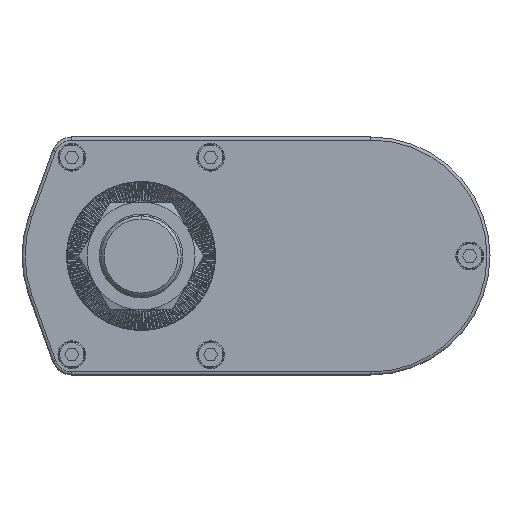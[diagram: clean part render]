
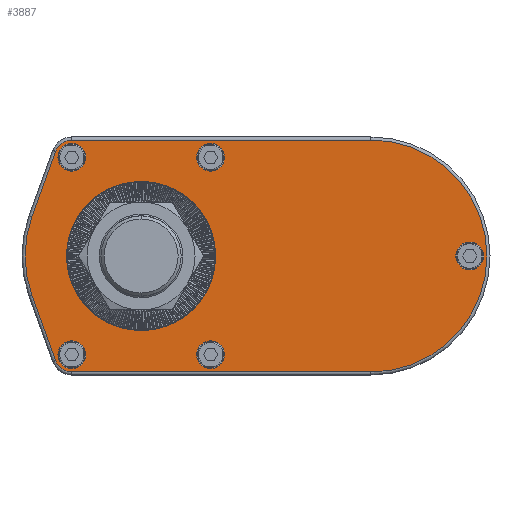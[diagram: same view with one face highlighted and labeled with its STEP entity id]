
A CAD part, left-side view. The second image highlights one B-rep face of the part: STEP entity #3887.
In plain terms, the highlighted planar face has unit normal (-1, 0, 0).
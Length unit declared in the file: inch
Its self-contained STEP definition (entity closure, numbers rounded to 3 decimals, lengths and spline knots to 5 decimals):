
#3887=ADVANCED_FACE('',(#8337,#8338,#8339,#8340,#8341,#8342,#8343),#8344,.F.);
#8337=FACE_BOUND('',#13654,.T.);
#8338=FACE_BOUND('',#13655,.T.);
#8339=FACE_BOUND('',#13656,.T.);
#8340=FACE_BOUND('',#13657,.T.);
#8341=FACE_BOUND('',#13658,.T.);
#8342=FACE_BOUND('',#13659,.T.);
#8343=FACE_OUTER_BOUND('',#13660,.T.);
#8344=PLANE('',#13661);
#13654=EDGE_LOOP('',(#25475,#25476));
#13655=EDGE_LOOP('',(#25477,#25478));
#13656=EDGE_LOOP('',(#25479,#25480));
#13657=EDGE_LOOP('',(#25481,#25482));
#13658=EDGE_LOOP('',(#25483,#25484));
#13659=EDGE_LOOP('',(#25485,#25486));
#13660=EDGE_LOOP('',(#25487,#25488,#25489,#25490,#25491,#25492,#25493,#25494));
#13661=AXIS2_PLACEMENT_3D('',#25495,#25496,#25497);
#25475=ORIENTED_EDGE('',*,*,#34352,.F.);
#25476=ORIENTED_EDGE('',*,*,#32384,.F.);
#25477=ORIENTED_EDGE('',*,*,#32184,.T.);
#25478=ORIENTED_EDGE('',*,*,#34591,.T.);
#25479=ORIENTED_EDGE('',*,*,#31621,.T.);
#25480=ORIENTED_EDGE('',*,*,#34745,.T.);
#25481=ORIENTED_EDGE('',*,*,#34105,.T.);
#25482=ORIENTED_EDGE('',*,*,#33508,.T.);
#25483=ORIENTED_EDGE('',*,*,#33665,.T.);
#25484=ORIENTED_EDGE('',*,*,#34746,.T.);
#25485=ORIENTED_EDGE('',*,*,#33108,.T.);
#25486=ORIENTED_EDGE('',*,*,#31540,.T.);
#25487=ORIENTED_EDGE('',*,*,#31672,.T.);
#25488=ORIENTED_EDGE('',*,*,#34158,.T.);
#25489=ORIENTED_EDGE('',*,*,#30766,.T.);
#25490=ORIENTED_EDGE('',*,*,#32544,.T.);
#25491=ORIENTED_EDGE('',*,*,#34747,.T.);
#25492=ORIENTED_EDGE('',*,*,#34748,.T.);
#25493=ORIENTED_EDGE('',*,*,#34749,.T.);
#25494=ORIENTED_EDGE('',*,*,#32443,.T.);
#25495=CARTESIAN_POINT('',(0.0,-2.93307,0.0));
#25496=DIRECTION('',(1.0,0.0,0.0));
#25497=DIRECTION('',(0.0,1.0,-0.0));
#30766=EDGE_CURVE('',#36997,#36995,#36998,.F.);
#31540=EDGE_CURVE('',#38275,#38273,#38276,.T.);
#31621=EDGE_CURVE('',#38395,#38397,#38399,.T.);
#31672=EDGE_CURVE('',#38476,#38481,#38483,.F.);
#32184=EDGE_CURVE('',#39274,#39276,#39278,.T.);
#32384=EDGE_CURVE('',#39627,#39300,#39629,.F.);
#32443=EDGE_CURVE('',#39708,#38476,#39712,.F.);
#32544=EDGE_CURVE('',#36995,#39861,#39863,.F.);
#33108=EDGE_CURVE('',#38273,#38275,#40667,.T.);
#33508=EDGE_CURVE('',#41195,#41193,#41196,.T.);
#33665=EDGE_CURVE('',#41396,#41398,#41400,.T.);
#34105=EDGE_CURVE('',#41193,#41195,#41965,.T.);
#34158=EDGE_CURVE('',#38481,#36997,#42030,.F.);
#34352=EDGE_CURVE('',#39300,#39627,#42254,.F.);
#34591=EDGE_CURVE('',#39276,#39274,#42554,.T.);
#34745=EDGE_CURVE('',#38397,#38395,#42727,.T.);
#34746=EDGE_CURVE('',#41398,#41396,#42728,.T.);
#34747=EDGE_CURVE('',#39861,#42729,#42730,.F.);
#34748=EDGE_CURVE('',#42729,#42731,#42732,.F.);
#34749=EDGE_CURVE('',#42731,#39708,#42733,.F.);
#36995=VERTEX_POINT('',#45551);
#36997=VERTEX_POINT('',#45553);
#36998=CIRCLE('',#45554,0.22047);
#38273=VERTEX_POINT('',#47264);
#38275=VERTEX_POINT('',#47267);
#38276=CIRCLE('',#47268,0.17717);
#38395=VERTEX_POINT('',#47438);
#38397=VERTEX_POINT('',#47441);
#38399=CIRCLE('',#47444,0.17717);
#38476=VERTEX_POINT('',#47554);
#38481=VERTEX_POINT('',#47559);
#38483=CIRCLE('',#47561,1.48031);
#39274=VERTEX_POINT('',#48637);
#39276=VERTEX_POINT('',#48640);
#39278=CIRCLE('',#48643,0.17717);
#39300=VERTEX_POINT('',#48670);
#39627=VERTEX_POINT('',#48998);
#39629=CIRCLE('',#49001,0.94882);
#39708=VERTEX_POINT('',#49113);
#39712=LINE('',#49118,#49119);
#39861=VERTEX_POINT('',#49332);
#39863=LINE('',#49334,#49335);
#40667=CIRCLE('',#50459,0.17717);
#41193=VERTEX_POINT('',#51206);
#41195=VERTEX_POINT('',#51209);
#41196=CIRCLE('',#51210,0.17717);
#41396=VERTEX_POINT('',#51479);
#41398=VERTEX_POINT('',#51482);
#41400=CIRCLE('',#51485,0.17717);
#41965=CIRCLE('',#52260,0.17717);
#42030=LINE('',#52349,#52350);
#42254=CIRCLE('',#52662,0.94882);
#42554=CIRCLE('',#53039,0.17717);
#42727=CIRCLE('',#53279,0.17717);
#42728=CIRCLE('',#53280,0.17717);
#42729=VERTEX_POINT('',#53281);
#42730=CIRCLE('',#53282,1.48031);
#42731=VERTEX_POINT('',#53283);
#42732=LINE('',#53284,#53285);
#42733=CIRCLE('',#53286,0.22047);
#45551=CARTESIAN_POINT('',(0.0,0.88425,-1.48031));
#45553=CARTESIAN_POINT('',(0.0,1.0916,-1.33479));
#45554=AXIS2_PLACEMENT_3D('',#55423,#55424,#55425);
#47264=CARTESIAN_POINT('',(0.0,0.88425,-1.43701));
#47267=CARTESIAN_POINT('',(0.0,0.88425,-1.08268));
#47268=AXIS2_PLACEMENT_3D('',#56479,#56480,#56481);
#47438=CARTESIAN_POINT('',(0.0,0.88425,1.08268));
#47441=CARTESIAN_POINT('',(0.0,0.88425,1.43701));
#47444=AXIS2_PLACEMENT_3D('',#56564,#56565,#56566);
#47554=CARTESIAN_POINT('',(0.0,1.39217,0.50319));
#47559=CARTESIAN_POINT('',(0.0,1.39217,-0.50319));
#47561=AXIS2_PLACEMENT_3D('',#56623,#56624,#56625);
#48637=CARTESIAN_POINT('',(0.0,-4.19449,-0.17717));
#48640=CARTESIAN_POINT('',(0.0,-4.19449,0.17717));
#48643=AXIS2_PLACEMENT_3D('',#57293,#57294,#57295);
#48670=CARTESIAN_POINT('',(0.0,0.0,-0.94882));
#48998=CARTESIAN_POINT('',(0.0,0.,0.94882));
#49001=AXIS2_PLACEMENT_3D('',#57867,#57868,#57869);
#49113=CARTESIAN_POINT('',(0.0,1.0916,1.33479));
#49118=CARTESIAN_POINT('',(0.0,1.39217,0.50319));
#49119=VECTOR('',#57931,39.37008);
#49332=CARTESIAN_POINT('',(0.0,-2.93307,-1.48031));
#49334=CARTESIAN_POINT('',(0.0,-2.93307,-1.48031));
#49335=VECTOR('',#58032,39.37008);
#50459=AXIS2_PLACEMENT_3D('',#58708,#58709,#58710);
#51206=CARTESIAN_POINT('',(0.0,-0.8874,-1.43701));
#51209=CARTESIAN_POINT('',(0.0,-0.8874,-1.08268));
#51210=AXIS2_PLACEMENT_3D('',#59160,#59161,#59162);
#51479=CARTESIAN_POINT('',(0.0,-0.8874,1.08268));
#51482=CARTESIAN_POINT('',(0.0,-0.8874,1.43701));
#51485=AXIS2_PLACEMENT_3D('',#59360,#59361,#59362);
#52260=AXIS2_PLACEMENT_3D('',#59855,#59856,#59857);
#52349=CARTESIAN_POINT('',(0.0,1.0916,-1.33479));
#52350=VECTOR('',#59912,39.37008);
#52662=AXIS2_PLACEMENT_3D('',#60091,#60092,#60093);
#53039=AXIS2_PLACEMENT_3D('',#60489,#60490,#60491);
#53279=AXIS2_PLACEMENT_3D('',#60640,#60641,#60642);
#53280=AXIS2_PLACEMENT_3D('',#60643,#60644,#60645);
#53281=CARTESIAN_POINT('',(0.0,-2.93307,1.48031));
#53282=AXIS2_PLACEMENT_3D('',#60646,#60647,#60648);
#53283=CARTESIAN_POINT('',(0.0,0.88425,1.48031));
#53284=CARTESIAN_POINT('',(0.0,0.88425,1.48031));
#53285=VECTOR('',#60649,39.37008);
#53286=AXIS2_PLACEMENT_3D('',#60650,#60651,#60652);
#55423=CARTESIAN_POINT('',(0.0,0.88425,-1.25984));
#55424=DIRECTION('',(1.0,0.0,0.0));
#55425=DIRECTION('',(0.0,0.0,-1.0));
#56479=CARTESIAN_POINT('',(0.0,0.88425,-1.25984));
#56480=DIRECTION('',(1.0,0.0,0.0));
#56481=DIRECTION('',(0.0,0.0,-1.0));
#56564=CARTESIAN_POINT('',(0.0,0.88425,1.25984));
#56565=DIRECTION('',(1.0,0.0,0.0));
#56566=DIRECTION('',(0.0,0.0,-1.0));
#56623=CARTESIAN_POINT('',(0.0,0.,0.0));
#56624=DIRECTION('',(1.0,0.0,0.0));
#56625=DIRECTION('',(0.0,0.0,-1.0));
#57293=CARTESIAN_POINT('',(0.0,-4.19449,0.0));
#57294=DIRECTION('',(1.0,0.0,0.0));
#57295=DIRECTION('',(0.0,0.0,-1.0));
#57867=CARTESIAN_POINT('',(0.0,0.0,0.0));
#57868=DIRECTION('',(1.0,0.0,0.0));
#57869=DIRECTION('',(0.0,0.0,-1.0));
#57931=DIRECTION('',(0.0,-0.34,0.94));
#58032=DIRECTION('',(0.0,1.0,0.0));
#58708=CARTESIAN_POINT('',(0.0,0.88425,-1.25984));
#58709=DIRECTION('',(1.0,0.0,0.0));
#58710=DIRECTION('',(0.0,0.0,-1.0));
#59160=CARTESIAN_POINT('',(0.0,-0.8874,-1.25984));
#59161=DIRECTION('',(1.0,0.0,0.0));
#59162=DIRECTION('',(0.0,0.0,-1.0));
#59360=CARTESIAN_POINT('',(0.0,-0.8874,1.25984));
#59361=DIRECTION('',(1.0,0.0,0.0));
#59362=DIRECTION('',(0.0,0.0,-1.0));
#59855=CARTESIAN_POINT('',(0.0,-0.8874,-1.25984));
#59856=DIRECTION('',(1.0,0.0,0.0));
#59857=DIRECTION('',(0.0,0.0,-1.0));
#59912=DIRECTION('',(0.0,0.34,0.94));
#60091=CARTESIAN_POINT('',(0.0,0.0,0.0));
#60092=DIRECTION('',(1.0,0.0,0.0));
#60093=DIRECTION('',(0.0,0.0,-1.0));
#60489=CARTESIAN_POINT('',(0.0,-4.19449,0.0));
#60490=DIRECTION('',(1.0,0.0,0.0));
#60491=DIRECTION('',(0.0,0.0,-1.0));
#60640=CARTESIAN_POINT('',(0.0,0.88425,1.25984));
#60641=DIRECTION('',(1.0,0.0,0.0));
#60642=DIRECTION('',(0.0,0.0,-1.0));
#60643=CARTESIAN_POINT('',(0.0,-0.8874,1.25984));
#60644=DIRECTION('',(1.0,0.0,0.0));
#60645=DIRECTION('',(0.0,0.0,-1.0));
#60646=CARTESIAN_POINT('',(0.0,-2.93307,0.0));
#60647=DIRECTION('',(1.0,0.0,0.0));
#60648=DIRECTION('',(0.0,0.0,-1.0));
#60649=DIRECTION('',(0.0,-1.0,0.0));
#60650=CARTESIAN_POINT('',(0.0,0.88425,1.25984));
#60651=DIRECTION('',(1.0,0.0,0.0));
#60652=DIRECTION('',(0.0,0.0,-1.0));
